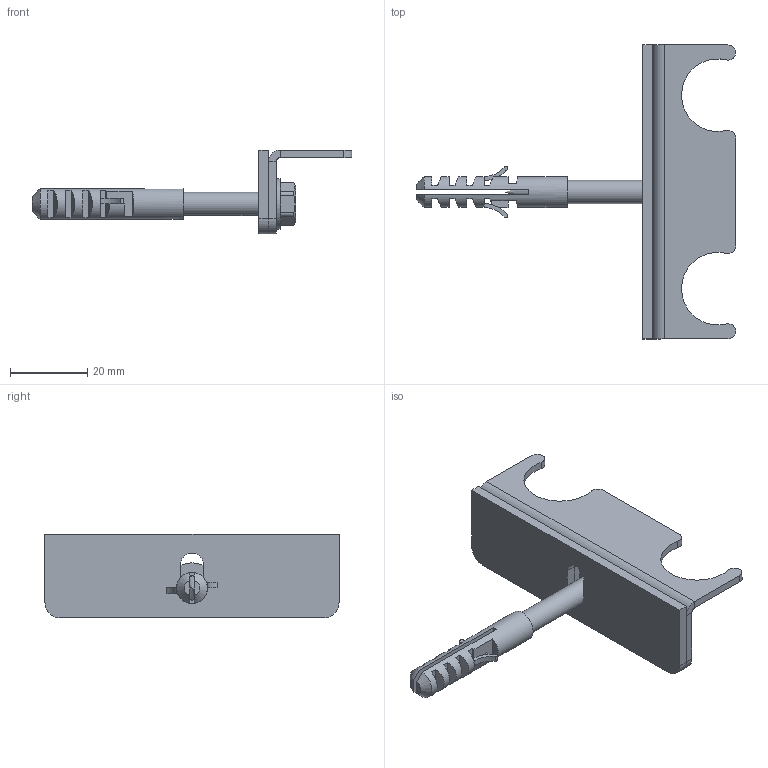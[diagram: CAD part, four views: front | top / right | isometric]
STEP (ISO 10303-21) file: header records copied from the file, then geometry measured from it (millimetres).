
FILE_DESCRIPTION(('STEP AP203'), '1');
FILE_NAME('覆.301561.003.000 捘-VT.481.KS.01', '2026-02-12T10:40:43', ('IT'), ('VESTA'), 'C3D Converter', 'C3D Toolkit', '');
FILE_SCHEMA(('CONFIG_CONTROL_DESIGN'));
Length unit declared in the file: millimetre
Products named in the file (5): ВР.301561.003.000 СБ; ВР.741136.001; ВР.745222.001
Assembly tree (4 placements, depth 2):
  ВР.301561.003.000 СБ
    ВР.741136.001
    ВР.745222.001
    (unnamed)
    (unnamed)
Bounding box: 82.55 x 76 x 21.7 mm (x, y, z)
Volume: 11489.8 mm3; surface area: 12403 mm2
Topology: 4 solids, 4 shells, 149 faces, 369 edges, 240 vertices
Faces by surface type: plane 106, cylinder 36, cone 7
Full cylindrical faces by diameter (mm): 6 x1, 6.4 x1, 8 x2, 13 x1
Entity records: 5501 total; most frequent: CARTESIAN_POINT 1756, ORIENTED_EDGE 720, DIRECTION 709, EDGE_CURVE 360, AXIS2_PLACEMENT_3D 239, VERTEX_POINT 239, LINE 231, VECTOR 231
